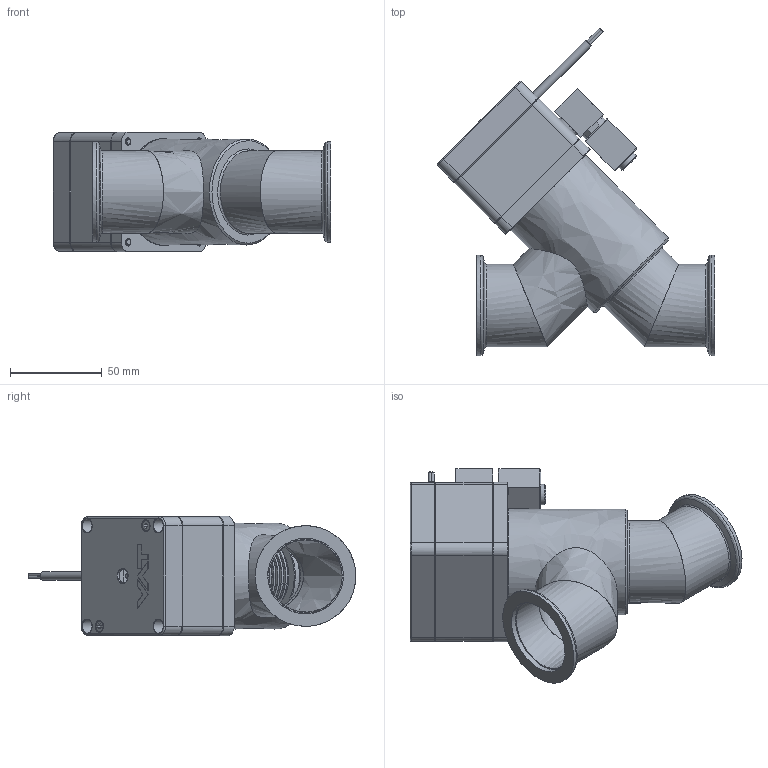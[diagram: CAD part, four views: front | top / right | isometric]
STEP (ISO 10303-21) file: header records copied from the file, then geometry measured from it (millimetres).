
FILE_DESCRIPTION((''),'2;1');
FILE_NAME('C:\TEMP\IDEAS\318603.stp','2006-06-07T10:37:38',('User'),( 'SDRC'),'I-DEAS Master Series 9','UNIX','Yes');
FILE_SCHEMA(('CONFIG_CONTROL_DESIGN'));
Length unit declared in the file: millimetre
Assembly tree (25 placements, depth 0):
Bounding box: 151.7 x 178.89 x 65.4 mm (x, y, z)
Volume: 191056.5 mm3; surface area: 220303.3 mm2
Topology: 21 solids, 24 shells, 893 faces, 1992 edges, 1300 vertices
Faces by surface type: bspline 893
Entity records: 34085 total; most frequent: CARTESIAN_POINT 20323, ORIENTED_EDGE 3516, EDGE_CURVE 1758, VERTEX_POINT 1146, EDGE_LOOP 986, FACE_OUTER_BOUND 791, ADVANCED_FACE 791, B_SPLINE_CURVE_WITH_KNOTS 647
